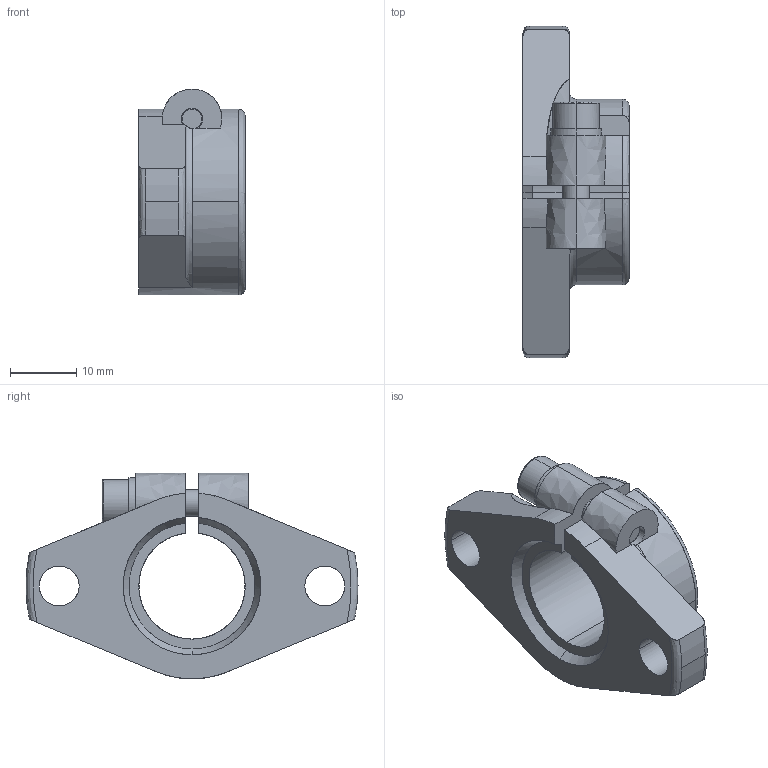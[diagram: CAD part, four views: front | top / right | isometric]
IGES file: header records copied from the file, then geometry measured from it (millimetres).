
Global section: file name: No Iges File Name specified; native system: AutoDesk Inventor R10; preprocessor: AutoDesk Inventor Iges Exporter R10; author: No Author specified; organization: No Organization specified; date: 20101214.153501; units: millimetre
Bounding box: 16 x 50 x 31 mm (x, y, z)
Surface area: 4711.9 mm2 (no closed solid volume)
Topology: 0 solids, 0 shells, 76 faces, 666 edges, 664 vertices
Faces by surface type: bspline 76
